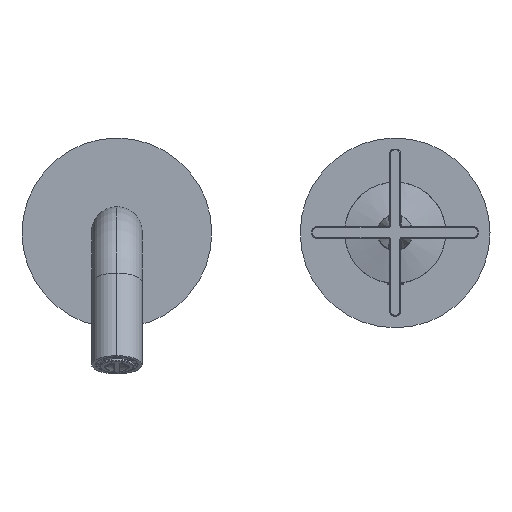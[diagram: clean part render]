
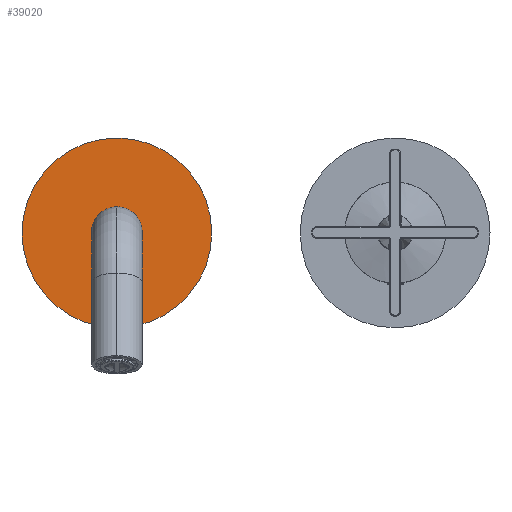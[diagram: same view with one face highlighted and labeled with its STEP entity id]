
A CAD part, top view. The second image highlights one B-rep face of the part: STEP entity #39020.
In plain terms, the highlighted planar face has unit normal (0, 0, 1).
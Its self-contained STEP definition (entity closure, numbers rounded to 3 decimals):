
#428=CARTESIAN_POINT('',(-112.,0.,60.7));
#429=DIRECTION('',(0.,0.,1.));
#430=DIRECTION('',(0.,1.,0.));
#431=AXIS2_PLACEMENT_3D('',#428,#429,#430);
#490=CARTESIAN_POINT('',(-112.,0.,60.7));
#491=DIRECTION('',(0.,0.,1.));
#492=DIRECTION('',(-1.,0.,0.));
#493=AXIS2_PLACEMENT_3D('',#490,#491,#492);
#495=CARTESIAN_POINT('',(-112.,0.,60.7));
#496=DIRECTION('',(0.,0.,-1.));
#497=DIRECTION('',(-1.,0.,0.));
#498=AXIS2_PLACEMENT_3D('',#495,#496,#497);
#518=CARTESIAN_POINT('',(-112.,0.,60.7));
#519=DIRECTION('',(0.,0.,1.));
#520=DIRECTION('',(0.,-1.,0.));
#521=AXIS2_PLACEMENT_3D('',#518,#519,#520);
#38264=CARTESIAN_POINT('',(-149.5,0.,60.7));
#38266=VERTEX_POINT('',#38264);
#38268=CARTESIAN_POINT('',(-74.5,0.,60.7));
#38270=VERTEX_POINT('',#38268);
#38275=CARTESIAN_POINT('',(-112.,10.,60.7));
#38276=CARTESIAN_POINT('',(-112.,-10.,60.7));
#38277=VERTEX_POINT('',#38275);
#38278=VERTEX_POINT('',#38276);
#39004=CARTESIAN_POINT('',(-112.,0.,60.7));
#39005=DIRECTION('',(0.,0.,1.));
#39006=DIRECTION('',(-1.,0.,0.));
#39007=AXIS2_PLACEMENT_3D('',#39004,#39005,#39006);
#39008=PLANE('',#39007);
#39010=ORIENTED_EDGE('',*,*,#39009,.F.);
#39012=ORIENTED_EDGE('',*,*,#39011,.T.);
#39013=EDGE_LOOP('',(#39010,#39012));
#39014=FACE_OUTER_BOUND('',#39013,.F.);
#39015=ORIENTED_EDGE('',*,*,#38990,.T.);
#39017=ORIENTED_EDGE('',*,*,#39016,.T.);
#39018=EDGE_LOOP('',(#39015,#39017));
#39019=FACE_BOUND('',#39018,.F.);
#39020=ADVANCED_FACE('',(#39014,#39019),#39008,.T.);
#432=CIRCLE('',#431,10.);
#494=CIRCLE('',#493,37.5);
#499=CIRCLE('',#498,37.5);
#522=CIRCLE('',#521,10.);
#38990=EDGE_CURVE('',#38277,#38278,#432,.T.);
#39009=EDGE_CURVE('',#38266,#38270,#494,.T.);
#39011=EDGE_CURVE('',#38266,#38270,#499,.T.);
#39016=EDGE_CURVE('',#38278,#38277,#522,.T.);
